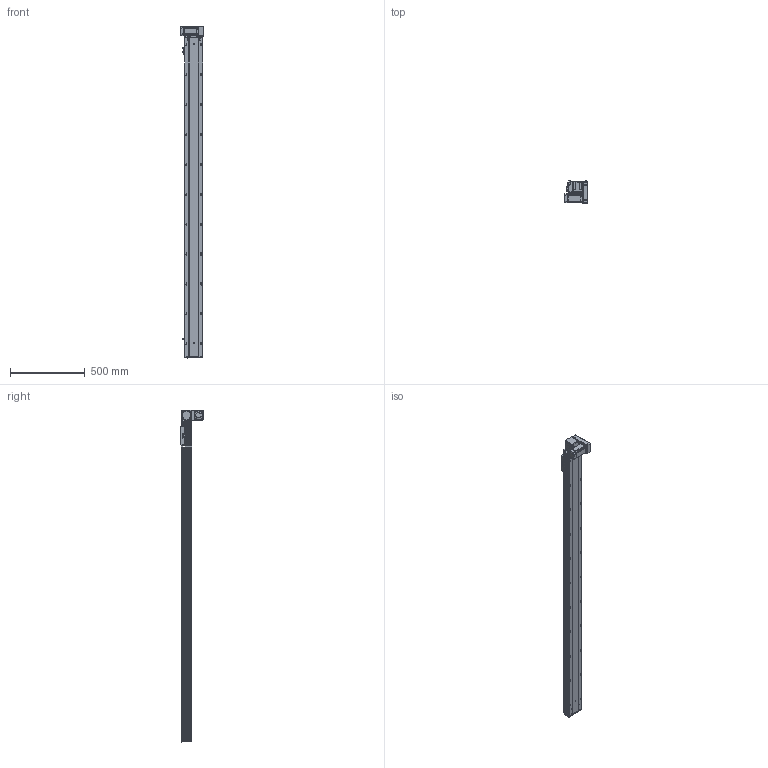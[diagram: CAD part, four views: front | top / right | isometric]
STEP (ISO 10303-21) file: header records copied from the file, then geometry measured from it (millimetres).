
FILE_DESCRIPTION (( 'STEP AP203' ), '1' );
FILE_NAME ('RY120-T-300-DR.SLDASM_1900.step', '2021-03-01T03:37:17', ( '盈信电脑' ), ( '东莞市道滘镇水果街19号' ), 'SwSTEP 2.0', 'SolidWorks 2012', '' );
FILE_SCHEMA (( 'CONFIG_CONTROL_DESIGN' ));
Length unit declared in the file: millimetre
Products named in the file (17): RY120肮祭湍臏賑輸; 覜茼ん672; RY120綴裔啣; RY120-T-300-DR倰第菁釱_1900; RY120-T-300-DR倰第奻裔啣_1900; RY120外置感应片(140共用）; RY120-T主同步轮轴承压盖; RY120-T-300-DR.SLDASM_1900; RY120-T萇儂欶; 15; RY120-T萇儂假蚾啣; RY120-T蹟翐M4; RY120-T肮祭湍揤踡輸2; RY120-T翋肮祭謫裔啣; 滅袉蝶18-10; RY120-T翋肮祭盓傅釱; RY120-T肮祭湍揤踡輸1
Assembly tree (22 placements, depth 2):
  RY120-T-300-DR.SLDASM_1900
    RY120-T-300-DR倰第菁釱_1900
    RY120-T-300-DR倰第奻裔啣_1900
    RY120肮祭湍臏賑輸
    RY120綴裔啣
    覜茼ん672  x3
    RY120外置感应片(140共用）
    RY120-T肮祭湍揤踡輸1
    RY120-T肮祭湍揤踡輸2
    RY120-T翋肮祭盓傅釱
    滅袉蝶18-10  x2
    RY120-T翋肮祭謫裔啣
    15
    RY120-T萇儂假蚾啣
    RY120-T蹟翐M4  x4
    RY120-T萇儂欶
    RY120-T主同步轮轴承压盖
Bounding box: 155.5 x 150 x 2221 mm (x, y, z)
Volume: 5586801.1 mm3; surface area: 2131775.6 mm2
Topology: 23 solids, 23 shells, 3108 faces, 8508 edges, 5422 vertices
Faces by surface type: plane 1452, cylinder 1246, cone 321, bspline 89
Entity records: 100057 total; most frequent: CARTESIAN_POINT 26196, ORIENTED_EDGE 15312, DIRECTION 14430, EDGE_CURVE 7656, VERTEX_POINT 5009, AXIS2_PLACEMENT_3D 4903, VECTOR 4624, LINE 4624
